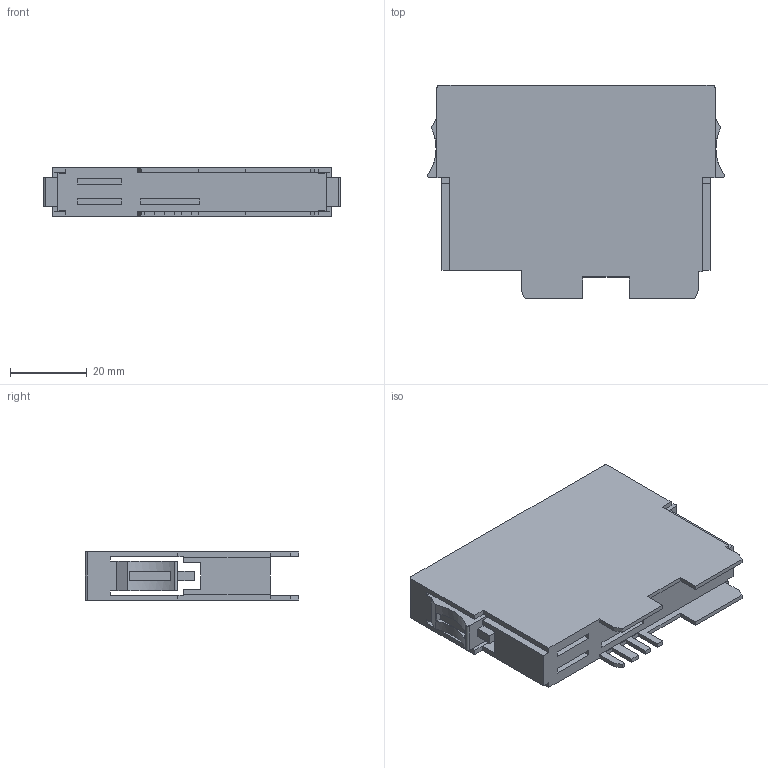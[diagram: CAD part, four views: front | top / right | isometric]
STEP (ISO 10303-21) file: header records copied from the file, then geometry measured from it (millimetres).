
FILE_DESCRIPTION((''),'2;1');
FILE_NAME('C:\TurckZip\BL20-Slice.stp','2011-01-13T10:47:16',('IKOROL'),(''),'Autodesk Inventor 2010','Autodesk Inventor 2010','');
FILE_SCHEMA(('CONFIG_CONTROL_DESIGN'));
Length unit declared in the file: millimetre
Products named in the file (1): Part2
Bounding box: 77.22 x 55.4 x 12.5 mm (x, y, z)
Volume: 37913.3 mm3; surface area: 18916.5 mm2
Topology: 1 solids, 1 shells, 116 faces, 330 edges, 220 vertices
Faces by surface type: plane 110, cylinder 6
Entity records: 3876 total; most frequent: CARTESIAN_POINT 667, ORIENTED_EDGE 660, DIRECTION 580, EDGE_CURVE 330, VECTOR 314, LINE 314, VERTEX_POINT 220, AXIS2_PLACEMENT_3D 133
